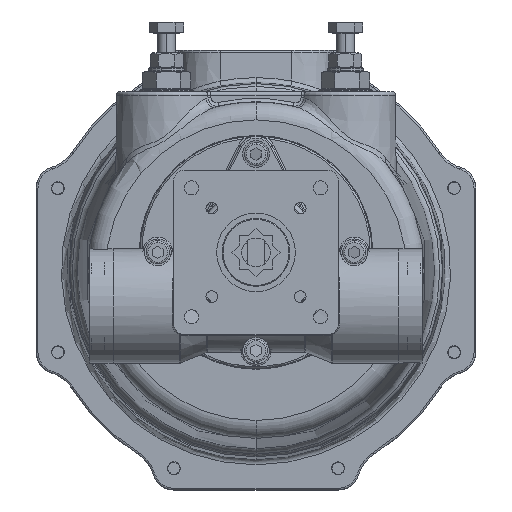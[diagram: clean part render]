
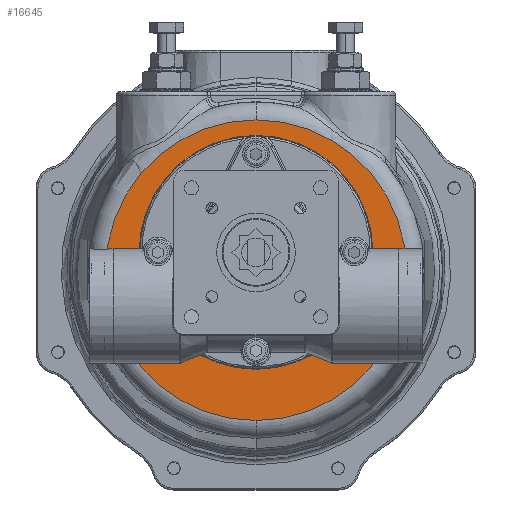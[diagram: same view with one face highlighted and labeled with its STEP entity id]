
A CAD part, front view. The second image highlights one B-rep face of the part: STEP entity #16645.
In plain terms, the highlighted planar face has unit normal (0, -1, 0).
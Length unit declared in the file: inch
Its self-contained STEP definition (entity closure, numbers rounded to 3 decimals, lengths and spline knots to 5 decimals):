
#1495 = CARTESIAN_POINT ( 'NONE',  ( 5.81311, 1.71175, 2.85813 ) ) ;
#12438 = DIRECTION ( 'NONE',  ( 0., 0., 1. ) ) ;
#16645 = ADVANCED_FACE ( 'NONE', ( #29177, #22898 ), #61382, .F. ) ;
#19349 = VERTEX_POINT ( 'NONE', #43649 ) ;
#20914 = DIRECTION ( 'NONE',  ( 0., 1., 0. ) ) ;
#22898 = FACE_OUTER_BOUND ( 'NONE', #72473, .T. ) ;
#23662 = CARTESIAN_POINT ( 'NONE',  ( 5.81311, 1.71175, 5.43482 ) ) ;
#25716 = CIRCLE ( 'NONE', #41803, 2.5767 ) ;
#26714 = VERTEX_POINT ( 'NONE', #1495 ) ;
#28104 = AXIS2_PLACEMENT_3D ( 'NONE', #74319, #47658, #73503 ) ;
#29177 = FACE_BOUND ( 'NONE', #34564, .T. ) ;
#30887 = AXIS2_PLACEMENT_3D ( 'NONE', #23662, #42937, #12438 ) ;
#34564 = EDGE_LOOP ( 'NONE', ( #68193, #34970 ) ) ;
#34970 = ORIENTED_EDGE ( 'NONE', *, *, #47889, .T. ) ;
#35946 = AXIS2_PLACEMENT_3D ( 'NONE', #64526, #38210, #51172 ) ;
#38210 = DIRECTION ( 'NONE',  ( 0., -1., 0. ) ) ;
#40182 = DIRECTION ( 'NONE',  ( 0., 0., 1. ) ) ;
#41803 = AXIS2_PLACEMENT_3D ( 'NONE', #72731, #20914, #40182 ) ;
#42395 = CARTESIAN_POINT ( 'NONE',  ( 5.81311, 1.71175, 8.01152 ) ) ;
#42937 = DIRECTION ( 'NONE',  ( 0., 1., 0. ) ) ;
#43649 = CARTESIAN_POINT ( 'NONE',  ( 5.81311, 1.71175, 1.72941 ) ) ;
#45245 = AXIS2_PLACEMENT_3D ( 'NONE', #76282, #46269, #57936 ) ;
#45614 = CIRCLE ( 'NONE', #30887, 2.5767 ) ;
#46269 = DIRECTION ( 'NONE',  ( 0., -1., 0. ) ) ;
#47658 = DIRECTION ( 'NONE',  ( 0., 1., 0. ) ) ;
#47889 = EDGE_CURVE ( 'NONE', #26714, #75196, #45614, .T. ) ;
#49383 = EDGE_CURVE ( 'NONE', #75196, #26714, #25716, .T. ) ;
#51172 = DIRECTION ( 'NONE',  ( 0., 0., -1. ) ) ;
#55622 = EDGE_CURVE ( 'NONE', #19349, #72281, #71995, .T. ) ;
#57936 = DIRECTION ( 'NONE',  ( 0., 0., -1. ) ) ;
#61382 = PLANE ( 'NONE',  #28104 ) ;
#63364 = ORIENTED_EDGE ( 'NONE', *, *, #69603, .T. ) ;
#64526 = CARTESIAN_POINT ( 'NONE',  ( 5.81311, 1.71175, 5.04112 ) ) ;
#68193 = ORIENTED_EDGE ( 'NONE', *, *, #49383, .T. ) ;
#69072 = ORIENTED_EDGE ( 'NONE', *, *, #55622, .T. ) ;
#69603 = EDGE_CURVE ( 'NONE', #72281, #19349, #73180, .T. ) ;
#71995 = CIRCLE ( 'NONE', #35946, 3.31171 ) ;
#72281 = VERTEX_POINT ( 'NONE', #77754 ) ;
#72473 = EDGE_LOOP ( 'NONE', ( #69072, #63364 ) ) ;
#72731 = CARTESIAN_POINT ( 'NONE',  ( 5.81311, 1.71175, 5.43482 ) ) ;
#73180 = CIRCLE ( 'NONE', #45245, 3.31171 ) ;
#73503 = DIRECTION ( 'NONE',  ( 0., 0., 1. ) ) ;
#74319 = CARTESIAN_POINT ( 'NONE',  ( 9.12483, 1.71175, 5.04112 ) ) ;
#75196 = VERTEX_POINT ( 'NONE', #42395 ) ;
#76282 = CARTESIAN_POINT ( 'NONE',  ( 5.81311, 1.71175, 5.04112 ) ) ;
#77754 = CARTESIAN_POINT ( 'NONE',  ( 5.81311, 1.71175, 8.35283 ) ) ;
